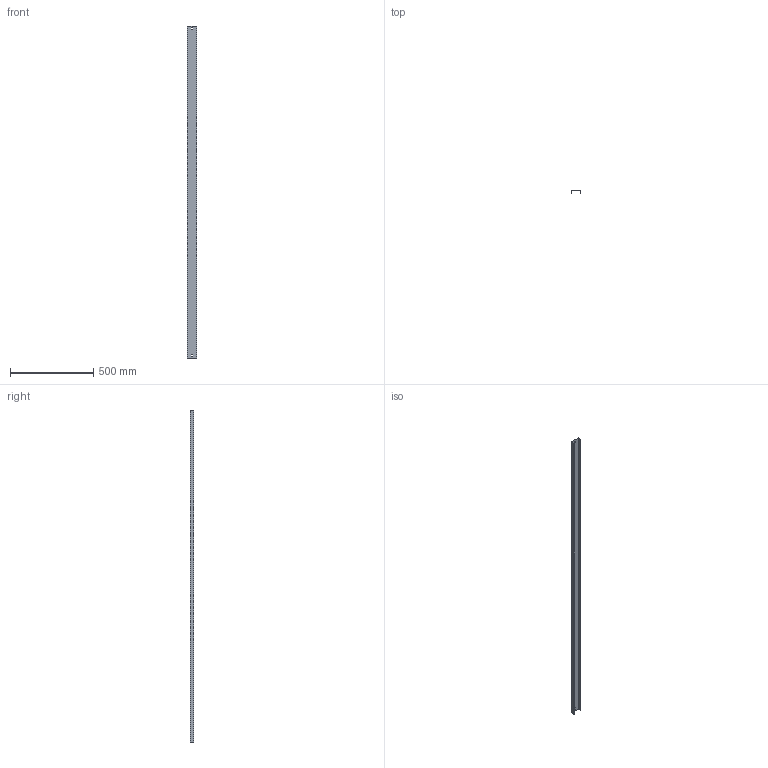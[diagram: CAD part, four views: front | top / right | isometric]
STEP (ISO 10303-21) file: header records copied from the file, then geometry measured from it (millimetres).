
FILE_DESCRIPTION (( 'STEP AP214' ), '1' );
FILE_NAME ('05G2R150.step', '2025-02-21T13:07:16', ( '' ), ( '' ), 'SwSTEP 2.0', 'SolidWorks 2023', '' );
FILE_SCHEMA (( 'AUTOMOTIVE_DESIGN' ));
Length unit declared in the file: millimetre
Products named in the file (1): 05G2R150
Bounding box: 57 x 20 x 2000 mm (x, y, z)
Volume: 281824.5 mm3; surface area: 382141 mm2
Topology: 1 solids, 1 shells, 18 faces, 48 edges, 32 vertices
Faces by surface type: plane 18
Entity records: 583 total; most frequent: CARTESIAN_POINT 99, ORIENTED_EDGE 96, DIRECTION 86, VECTOR 48, LINE 48, EDGE_CURVE 48, VERTEX_POINT 32, EDGE_LOOP 22
